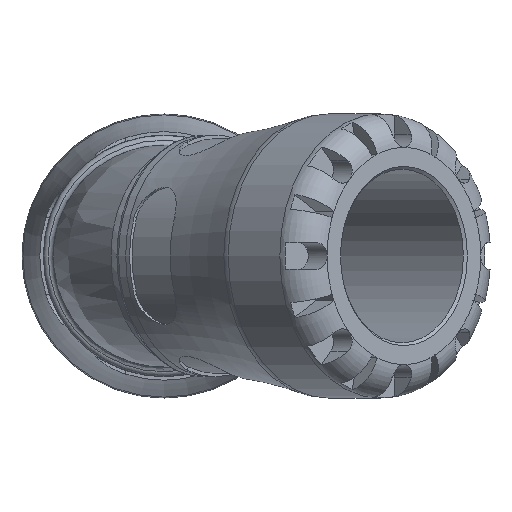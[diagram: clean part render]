
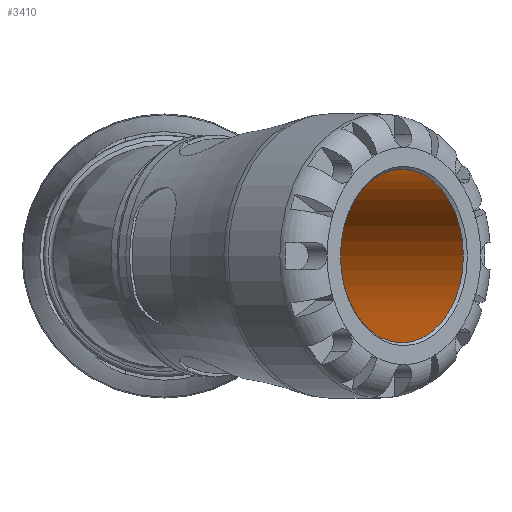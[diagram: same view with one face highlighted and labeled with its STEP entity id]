
A CAD part, left-side view. The second image highlights one B-rep face of the part: STEP entity #3410.
In plain terms, the highlighted cylindrical face has radius 31.5 mm (diameter 63 mm), a full revolution.
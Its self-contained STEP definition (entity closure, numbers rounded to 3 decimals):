
#160=LINE('',#5589,#330);
#330=VECTOR('',#4185,31.5);
#498=CYLINDRICAL_SURFACE('',#3672,31.5);
#875=FACE_OUTER_BOUND('',#1071,.T.);
#1071=EDGE_LOOP('',(#2458,#2459,#2460,#2461,#2462,#2463));
#1291=CIRCLE('',#3669,31.5);
#1292=CIRCLE('',#3670,31.5);
#1294=CIRCLE('',#3673,31.5);
#1295=CIRCLE('',#3674,31.5);
#1524=VERTEX_POINT('',#5580);
#1525=VERTEX_POINT('',#5581);
#1527=VERTEX_POINT('',#5588);
#1528=VERTEX_POINT('',#5590);
#1884=EDGE_CURVE('',#1524,#1525,#1291,.T.);
#1885=EDGE_CURVE('',#1525,#1524,#1292,.T.);
#1888=EDGE_CURVE('',#1525,#1527,#160,.T.);
#1889=EDGE_CURVE('',#1528,#1527,#1294,.T.);
#1890=EDGE_CURVE('',#1527,#1528,#1295,.T.);
#2458=ORIENTED_EDGE('',*,*,#1884,.F.);
#2459=ORIENTED_EDGE('',*,*,#1885,.F.);
#2460=ORIENTED_EDGE('',*,*,#1888,.T.);
#2461=ORIENTED_EDGE('',*,*,#1889,.F.);
#2462=ORIENTED_EDGE('',*,*,#1890,.F.);
#2463=ORIENTED_EDGE('',*,*,#1888,.F.);
#3410=ADVANCED_FACE('',(#875),#498,.F.);
#3669=AXIS2_PLACEMENT_3D('',#5582,#4176,#4177);
#3670=AXIS2_PLACEMENT_3D('',#5583,#4178,#4179);
#3672=AXIS2_PLACEMENT_3D('',#5587,#4183,#4184);
#3673=AXIS2_PLACEMENT_3D('',#5591,#4186,#4187);
#3674=AXIS2_PLACEMENT_3D('',#5592,#4188,#4189);
#4176=DIRECTION('center_axis',(0.707,0.707,0.));
#4177=DIRECTION('ref_axis',(-0.707,0.707,0.));
#4178=DIRECTION('center_axis',(0.707,0.707,0.));
#4179=DIRECTION('ref_axis',(-0.707,0.707,0.));
#4183=DIRECTION('center_axis',(-0.707,-0.707,0.));
#4184=DIRECTION('ref_axis',(0.707,-0.707,0.));
#4185=DIRECTION('',(0.707,0.707,0.));
#4186=DIRECTION('center_axis',(-0.707,-0.707,0.));
#4187=DIRECTION('ref_axis',(0.,0.,-1.));
#4188=DIRECTION('center_axis',(-0.707,-0.707,0.));
#4189=DIRECTION('ref_axis',(0.,0.,-1.));
#5580=CARTESIAN_POINT('',(-63.972,-108.52,0.));
#5581=CARTESIAN_POINT('',(-108.52,-63.972,0.));
#5582=CARTESIAN_POINT('Origin',(-86.246,-86.246,0.));
#5583=CARTESIAN_POINT('Origin',(-86.246,-86.246,0.));
#5587=CARTESIAN_POINT('Origin',(-53.387,-53.387,0.));
#5588=CARTESIAN_POINT('',(-42.073,2.475,0.));
#5589=CARTESIAN_POINT('',(-75.66,-31.113,0.));
#5590=CARTESIAN_POINT('',(2.475,-42.073,0.));
#5591=CARTESIAN_POINT('Origin',(-19.799,-19.799,0.));
#5592=CARTESIAN_POINT('Origin',(-19.799,-19.799,0.));
